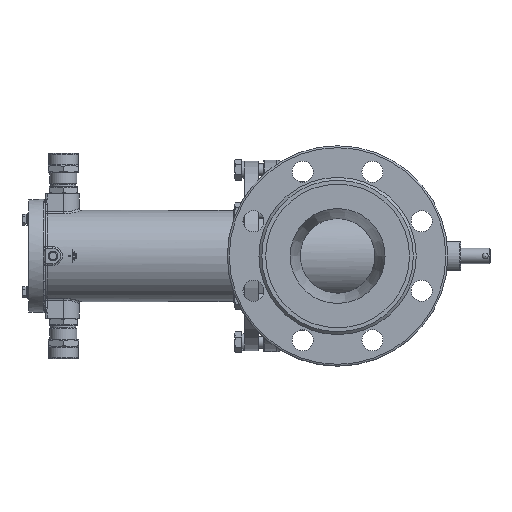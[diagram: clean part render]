
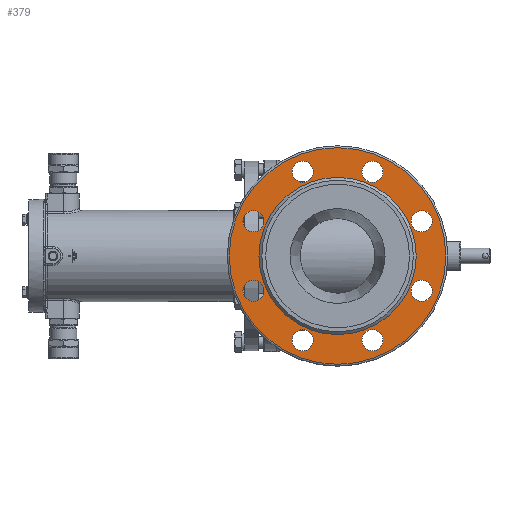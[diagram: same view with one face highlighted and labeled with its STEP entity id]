
A CAD part, left-side view. The second image highlights one B-rep face of the part: STEP entity #379.
In plain terms, the highlighted planar face has unit normal (-1, 0, 0).
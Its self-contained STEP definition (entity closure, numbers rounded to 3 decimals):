
#379=ADVANCED_FACE('',(#7828,#7830,#7832,#7834,#7836,#7838,#7840,#7842,#7844,#7846),
#7848,.T.);
#7828=FACE_BOUND('',#7829,.T.);
#7829=EDGE_LOOP('',(#23333));
#7830=FACE_BOUND('',#7831,.T.);
#7831=EDGE_LOOP('',(#23334));
#7832=FACE_BOUND('',#7833,.T.);
#7833=EDGE_LOOP('',(#23335));
#7834=FACE_BOUND('',#7835,.T.);
#7835=EDGE_LOOP('',(#23336));
#7836=FACE_BOUND('',#7837,.T.);
#7837=EDGE_LOOP('',(#23337));
#7838=FACE_BOUND('',#7839,.T.);
#7839=EDGE_LOOP('',(#23338));
#7840=FACE_BOUND('',#7841,.T.);
#7841=EDGE_LOOP('',(#23339));
#7842=FACE_BOUND('',#7843,.T.);
#7843=EDGE_LOOP('',(#23340));
#7844=FACE_BOUND('',#7845,.T.);
#7845=EDGE_LOOP('',(#23341));
#7846=FACE_OUTER_BOUND('',#7847,.T.);
#7847=EDGE_LOOP('',(#23342));
#7848=PLANE('',#7849);
#7849=AXIS2_PLACEMENT_3D('',#7850,#7851,#7852);
#7850=CARTESIAN_POINT('',(-151.,0.,0.));
#7851=DIRECTION('',(-1.,0.,0.));
#7852=DIRECTION('',(0.,1.,0.));
#23333=ORIENTED_EDGE('',*,*,#34932,.F.);
#23334=ORIENTED_EDGE('',*,*,#34900,.T.);
#23335=ORIENTED_EDGE('',*,*,#34898,.T.);
#23336=ORIENTED_EDGE('',*,*,#34896,.T.);
#23337=ORIENTED_EDGE('',*,*,#34894,.T.);
#23338=ORIENTED_EDGE('',*,*,#34892,.T.);
#23339=ORIENTED_EDGE('',*,*,#34890,.T.);
#23340=ORIENTED_EDGE('',*,*,#34888,.T.);
#23341=ORIENTED_EDGE('',*,*,#34886,.T.);
#23342=ORIENTED_EDGE('',*,*,#34933,.T.);
#34886=EDGE_CURVE('',#40244,#40244,#40246,.F.);
#34888=EDGE_CURVE('',#40247,#40247,#40249,.F.);
#34890=EDGE_CURVE('',#40250,#40250,#40252,.F.);
#34892=EDGE_CURVE('',#40253,#40253,#40255,.F.);
#34894=EDGE_CURVE('',#40256,#40256,#40258,.F.);
#34896=EDGE_CURVE('',#40259,#40259,#40261,.F.);
#34898=EDGE_CURVE('',#40262,#40262,#40264,.F.);
#34900=EDGE_CURVE('',#40265,#40265,#40267,.F.);
#34932=EDGE_CURVE('',#40324,#40324,#40325,.T.);
#34933=EDGE_CURVE('',#40326,#40326,#40327,.T.);
#40244=VERTEX_POINT('',#53752);
#40246=CIRCLE('',#53756,11.);
#40247=VERTEX_POINT('',#53760);
#40249=CIRCLE('',#53764,11.);
#40250=VERTEX_POINT('',#53768);
#40252=CIRCLE('',#53772,11.);
#40253=VERTEX_POINT('',#53776);
#40255=CIRCLE('',#53780,11.);
#40256=VERTEX_POINT('',#53784);
#40258=CIRCLE('',#53788,11.);
#40259=VERTEX_POINT('',#53792);
#40261=CIRCLE('',#53796,11.);
#40262=VERTEX_POINT('',#53800);
#40264=CIRCLE('',#53804,11.);
#40265=VERTEX_POINT('',#53808);
#40267=CIRCLE('',#53812,11.);
#40324=VERTEX_POINT('',#54069);
#40325=CIRCLE('',#54070,82.);
#40326=VERTEX_POINT('',#54074);
#40327=CIRCLE('',#54075,113.);
#53752=CARTESIAN_POINT('',(-151.,87.769,25.355));
#53756=AXIS2_PLACEMENT_3D('',#53757,#53758,#53759);
#53757=CARTESIAN_POINT('',(-151.,87.769,36.355));
#53758=DIRECTION('',(-1.,0.,0.));
#53759=DIRECTION('',(0.,0.,-1.));
#53760=CARTESIAN_POINT('',(-151.,87.769,-47.355));
#53764=AXIS2_PLACEMENT_3D('',#53765,#53766,#53767);
#53765=CARTESIAN_POINT('',(-151.,87.769,-36.355));
#53766=DIRECTION('',(-1.,0.,0.));
#53767=DIRECTION('',(0.,0.,-1.));
#53768=CARTESIAN_POINT('',(-151.,36.355,-98.769));
#53772=AXIS2_PLACEMENT_3D('',#53773,#53774,#53775);
#53773=CARTESIAN_POINT('',(-151.,36.355,-87.769));
#53774=DIRECTION('',(-1.,0.,0.));
#53775=DIRECTION('',(0.,0.,-1.));
#53776=CARTESIAN_POINT('',(-151.,36.355,76.769));
#53780=AXIS2_PLACEMENT_3D('',#53781,#53782,#53783);
#53781=CARTESIAN_POINT('',(-151.,36.355,87.769));
#53782=DIRECTION('',(-1.,0.,0.));
#53783=DIRECTION('',(0.,0.,-1.));
#53784=CARTESIAN_POINT('',(-151.,-87.769,25.355));
#53788=AXIS2_PLACEMENT_3D('',#53789,#53790,#53791);
#53789=CARTESIAN_POINT('',(-151.,-87.769,36.355));
#53790=DIRECTION('',(-1.,0.,0.));
#53791=DIRECTION('',(0.,0.,-1.));
#53792=CARTESIAN_POINT('',(-151.,-87.769,-47.355));
#53796=AXIS2_PLACEMENT_3D('',#53797,#53798,#53799);
#53797=CARTESIAN_POINT('',(-151.,-87.769,-36.355));
#53798=DIRECTION('',(-1.,0.,0.));
#53799=DIRECTION('',(0.,0.,-1.));
#53800=CARTESIAN_POINT('',(-151.,-36.355,-98.769));
#53804=AXIS2_PLACEMENT_3D('',#53805,#53806,#53807);
#53805=CARTESIAN_POINT('',(-151.,-36.355,-87.769));
#53806=DIRECTION('',(-1.,0.,0.));
#53807=DIRECTION('',(0.,0.,-1.));
#53808=CARTESIAN_POINT('',(-151.,-36.355,76.769));
#53812=AXIS2_PLACEMENT_3D('',#53813,#53814,#53815);
#53813=CARTESIAN_POINT('',(-151.,-36.355,87.769));
#53814=DIRECTION('',(-1.,0.,0.));
#53815=DIRECTION('',(0.,0.,-1.));
#54069=CARTESIAN_POINT('',(-151.,82.,0.));
#54070=AXIS2_PLACEMENT_3D('',#54071,#54072,#54073);
#54071=CARTESIAN_POINT('',(-151.,0.,0.));
#54072=DIRECTION('',(-1.,0.,0.));
#54073=DIRECTION('',(0.,1.,0.));
#54074=CARTESIAN_POINT('',(-151.,113.,0.));
#54075=AXIS2_PLACEMENT_3D('',#54076,#54077,#54078);
#54076=CARTESIAN_POINT('',(-151.,0.,0.));
#54077=DIRECTION('',(-1.,0.,0.));
#54078=DIRECTION('',(0.,1.,0.));
